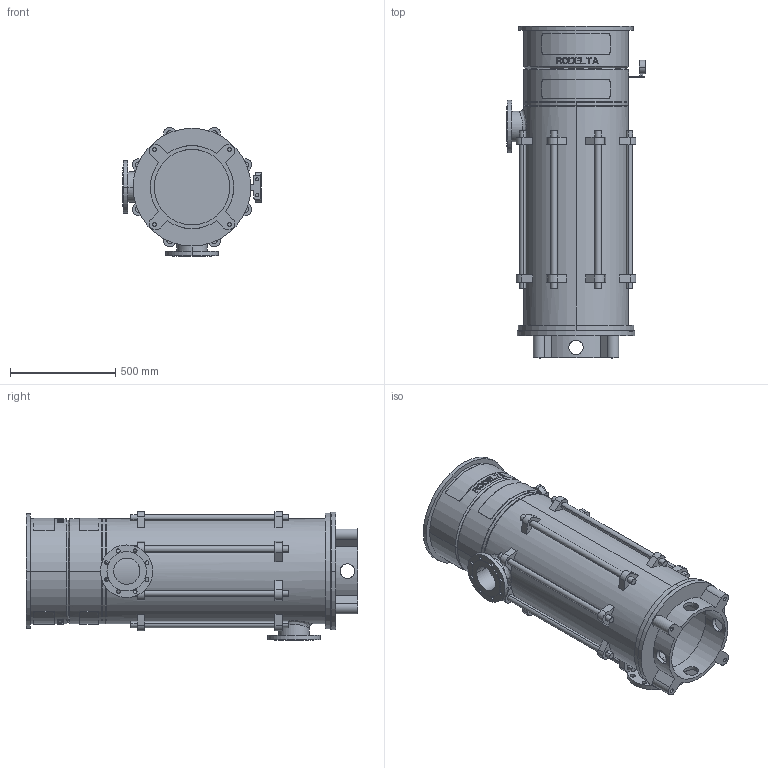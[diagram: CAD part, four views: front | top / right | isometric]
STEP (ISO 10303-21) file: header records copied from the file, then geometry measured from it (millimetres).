
FILE_DESCRIPTION((''),'2;1');
FILE_NAME('LS5_6TR_0GR_ABOVE_30KW','2023-08-08T',('Lyritlocal'),(''),'PRO/ENGINEER BY PARAMETRIC TECHNOLOGY CORPORATION, 2016360','PRO/ENGINEER BY PARAMETRIC TECHNOLOGY CORPORATION, 2016360','');
FILE_SCHEMA(('CONFIG_CONTROL_DESIGN'));
Length unit declared in the file: millimetre
Products named in the file (1): LS5_6TR_0GR_ABOVE_30KW
Bounding box: 660 x 1580 x 614.04 mm (x, y, z)
Volume: 46767414.7 mm3; surface area: 6926326.1 mm2
Topology: 3 solids, 7 shells, 672 faces, 1749 edges, 1158 vertices
Faces by surface type: plane 414, cylinder 242, cone 12, bspline 4
Entity records: 21925 total; most frequent: CARTESIAN_POINT 5473, ORIENTED_EDGE 3482, DIRECTION 3271, EDGE_CURVE 1749, AXIS2_PLACEMENT_3D 1241, VERTEX_POINT 1158, EDGE_LOOP 807, VECTOR 789
